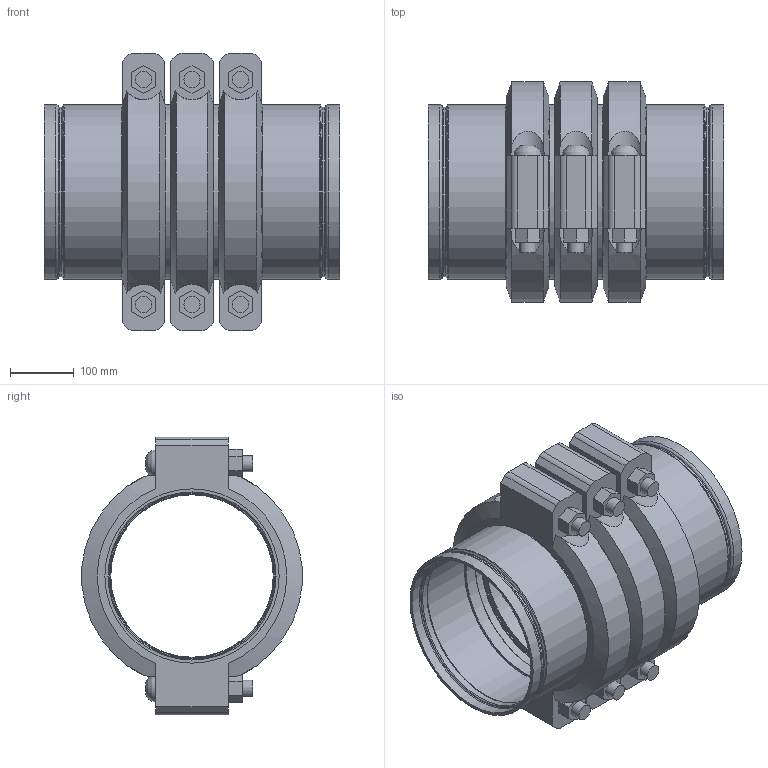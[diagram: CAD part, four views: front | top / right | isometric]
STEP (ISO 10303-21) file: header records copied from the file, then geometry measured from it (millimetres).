
FILE_DESCRIPTION(/* description */ ('VIC STRENGTHIN 100 EXPANSION JOINT 3 COUPLINGS EXPANDED STYLE E155 (ST1)','CAx-IF Rec.Pracs.---Representation and Presentation of Product Manufacturing Information (PMI)---4.0---2014-10-13'),/* implementation_level */ '2;1');
FILE_NAME(/* name */ 'C:\Users\Vjadhav\AppData\Roaming\Autodesk\ApplicationPlugins\Victaulic.Temp\A946\Victaulic_SS-StrengThin 100_Expansion Joint_Expanded_3 Couplings_Style E155 (ST1)_10 (250).stp',/* time_stamp */ '2021-07-23T19:28:31+06:00',/* author */ ('kkamble'),/* organization */ ('Victaulic'),/* preprocessor_version */ 'ST-DEVELOPER v17.2',/* originating_system */ 'Autodesk Inventor 2019',/* authorisation */ '');
FILE_SCHEMA (('AP242_MANAGED_MODEL_BASED_3D_ENGINEERING_MIM_LF { 1 0 10303 442 1 1 4 }'));
Length unit declared in the file: inch
Products named in the file (4): E155-10.0; E494G-10.0; Nipple-10.0; 077-10.0
Assembly tree (7 placements, depth 2):
  E155-10.0
    E494G-10.0  x2
    Nipple-10.0  x2
    077-10.0  x3
Bounding box: 462.79 x 344.9 x 435.1 mm (x, y, z)
Volume: 11062596.4 mm3; surface area: 1671213.3 mm2
Topology: 7 solids, 13 shells, 277 faces, 725 edges, 516 vertices
Faces by surface type: plane 134, cylinder 89, torus 32, cone 16, bspline 6
Full cylindrical faces by diameter (mm): 25.4 x12, 27.432 x6, 254.508 x2, 255.626 x2, 258.724 x2, 263.5 x6, 264.16 x3, 265.176 x2, 268.275 x6, 273.05 x18
Entity records: 4041 total; most frequent: CARTESIAN_POINT 842, DIRECTION 679, ORIENTED_EDGE 580, AXIS2_PLACEMENT_3D 292, EDGE_CURVE 290, VERTEX_POINT 209, CIRCLE 175, EDGE_LOOP 135
